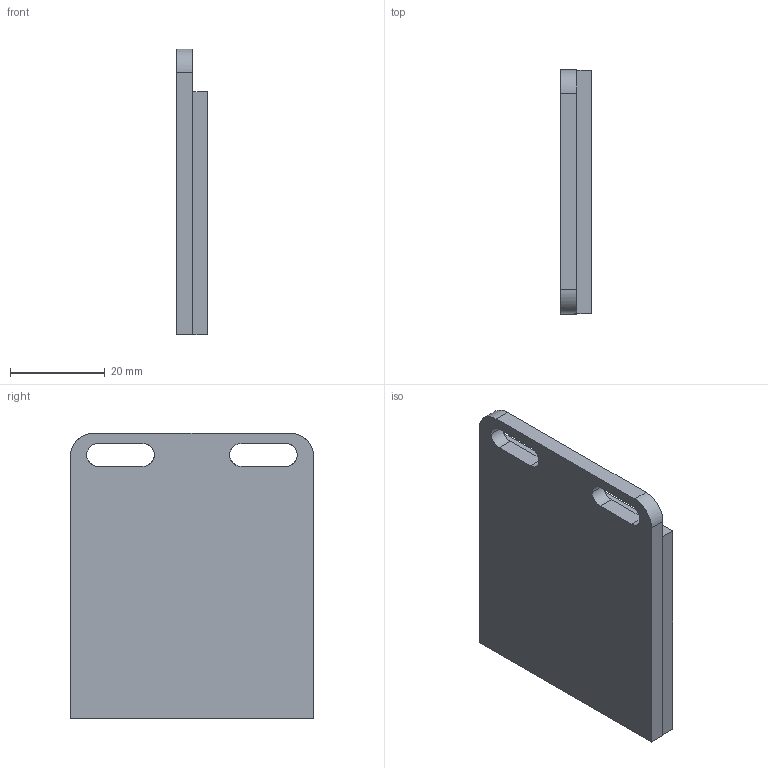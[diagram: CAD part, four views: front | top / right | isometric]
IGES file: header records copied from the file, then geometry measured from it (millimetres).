
Start section: C
Global section: file name: FTDR 048U048.igs; native system: By Siemens PLM Incorporated; preprocessor: XPlus GENERIC/IGES 19.0.9; author: Author; organization: Title; date: 20200420.134147; units: millimetre
Bounding box: 6.4 x 51.4 x 60.3 mm (x, y, z)
Surface area: 7514.8 mm2 (no closed solid volume)
Topology: 0 solids, 0 shells, 28 faces, 144 edges, 144 vertices
Faces by surface type: bspline 28
